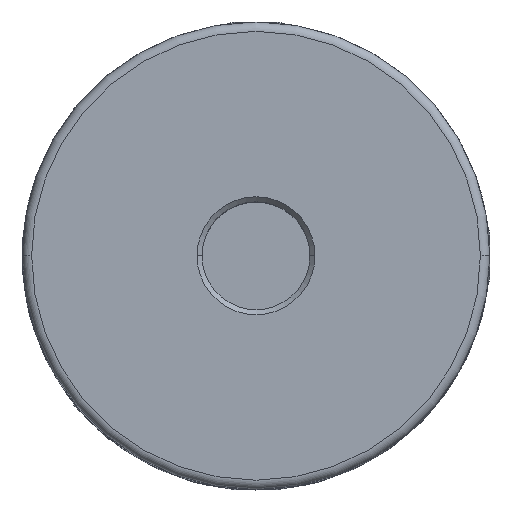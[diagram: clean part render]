
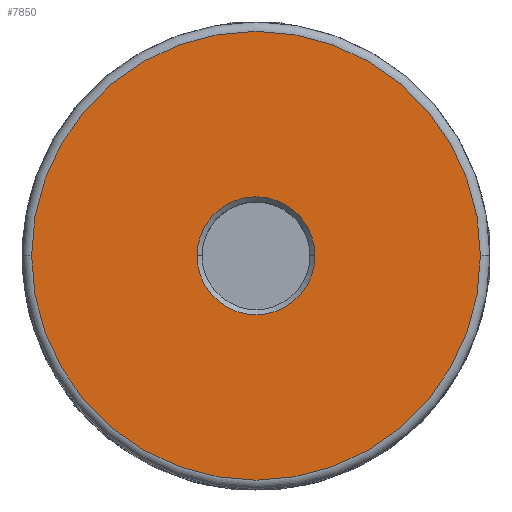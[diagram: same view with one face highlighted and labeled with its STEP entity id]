
A CAD part, top view. The second image highlights one B-rep face of the part: STEP entity #7850.
In plain terms, the highlighted planar face has unit normal (0, 0, 1).
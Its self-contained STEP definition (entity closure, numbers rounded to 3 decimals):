
#93 = CIRCLE ( 'NONE', #12317, 8.2 ) ;
#387 = CIRCLE ( 'NONE', #12519, 8.2 ) ;
#388 = CIRCLE ( 'NONE', #12520, 31.2 ) ;
#773 = EDGE_LOOP ( 'NONE', ( #2067, #2066 ) ) ;
#950 = EDGE_LOOP ( 'NONE', ( #2069, #2068 ) ) ;
#1126 = VERTEX_POINT ( 'NONE', #1432 ) ;
#1151 = VERTEX_POINT ( 'NONE', #1429 ) ;
#1429 = CARTESIAN_POINT ( 'NONE',  ( 8.2, 0., 45.15 ) ) ;
#1432 = CARTESIAN_POINT ( 'NONE',  ( -8.2, 0., 45.15 ) ) ;
#2066 = ORIENTED_EDGE ( 'NONE', *, *, #9356, .T. ) ;
#2067 = ORIENTED_EDGE ( 'NONE', *, *, #4095, .T. ) ;
#2068 = ORIENTED_EDGE ( 'NONE', *, *, #4094, .T. ) ;
#2069 = ORIENTED_EDGE ( 'NONE', *, *, #3761, .T. ) ;
#2784 = CARTESIAN_POINT ( 'NONE',  ( -31.2, 0., 45.15 ) ) ;
#3447 = CARTESIAN_POINT ( 'NONE',  ( 0., 0., 45.15 ) ) ;
#3449 = DIRECTION ( 'NONE',  ( 0., 0., 1. ) ) ;
#3450 = DIRECTION ( 'NONE',  ( -1., 0., 0. ) ) ;
#3452 = CARTESIAN_POINT ( 'NONE',  ( 0., 0., 45.15 ) ) ;
#3454 = DIRECTION ( 'NONE',  ( 0., 0., -1. ) ) ;
#3462 = DIRECTION ( 'NONE',  ( 0., 1., 0. ) ) ;
#3761 = EDGE_CURVE ( 'NONE', #1151, #1126, #93, .T. ) ;
#4094 = EDGE_CURVE ( 'NONE', #1126, #1151, #387, .T. ) ;
#4095 = EDGE_CURVE ( 'NONE', #8041, #4462, #388, .T. ) ;
#4462 = VERTEX_POINT ( 'NONE', #14054 ) ;
#4658 = AXIS2_PLACEMENT_3D ( 'NONE', #10036, #10042, #10043 ) ;
#6808 = CARTESIAN_POINT ( 'NONE',  ( 0., 0., 45.15 ) ) ;
#6809 = DIRECTION ( 'NONE',  ( 0., 0., 1. ) ) ;
#6810 = DIRECTION ( 'NONE',  ( -1., 0., 0. ) ) ;
#7432 = CIRCLE ( 'NONE', #10108, 31.2 ) ;
#7850 = ADVANCED_FACE ( 'NONE', ( #8440, #8460 ), #10037, .F. ) ;
#8041 = VERTEX_POINT ( 'NONE', #2784 ) ;
#8440 = FACE_BOUND ( 'NONE', #950, .T. ) ;
#8460 = FACE_OUTER_BOUND ( 'NONE', #773, .T. ) ;
#9356 = EDGE_CURVE ( 'NONE', #4462, #8041, #7432, .T. ) ;
#10036 = CARTESIAN_POINT ( 'NONE',  ( 0., 0., 45.15 ) ) ;
#10037 = PLANE ( 'NONE',  #4658 ) ;
#10042 = DIRECTION ( 'NONE',  ( 0., 0., -1. ) ) ;
#10043 = DIRECTION ( 'NONE',  ( -1., 0., 0. ) ) ;
#10108 = AXIS2_PLACEMENT_3D ( 'NONE', #6808, #6809, #6810 ) ;
#11126 = DIRECTION ( 'NONE',  ( 0., 1., 0. ) ) ;
#11128 = DIRECTION ( 'NONE',  ( 0., 0., -1. ) ) ;
#11130 = CARTESIAN_POINT ( 'NONE',  ( 0., 0., 45.15 ) ) ;
#12317 = AXIS2_PLACEMENT_3D ( 'NONE', #11130, #11128, #11126 ) ;
#12519 = AXIS2_PLACEMENT_3D ( 'NONE', #3447, #3454, #3462 ) ;
#12520 = AXIS2_PLACEMENT_3D ( 'NONE', #3452, #3449, #3450 ) ;
#14054 = CARTESIAN_POINT ( 'NONE',  ( 31.2, 0., 45.15 ) ) ;
